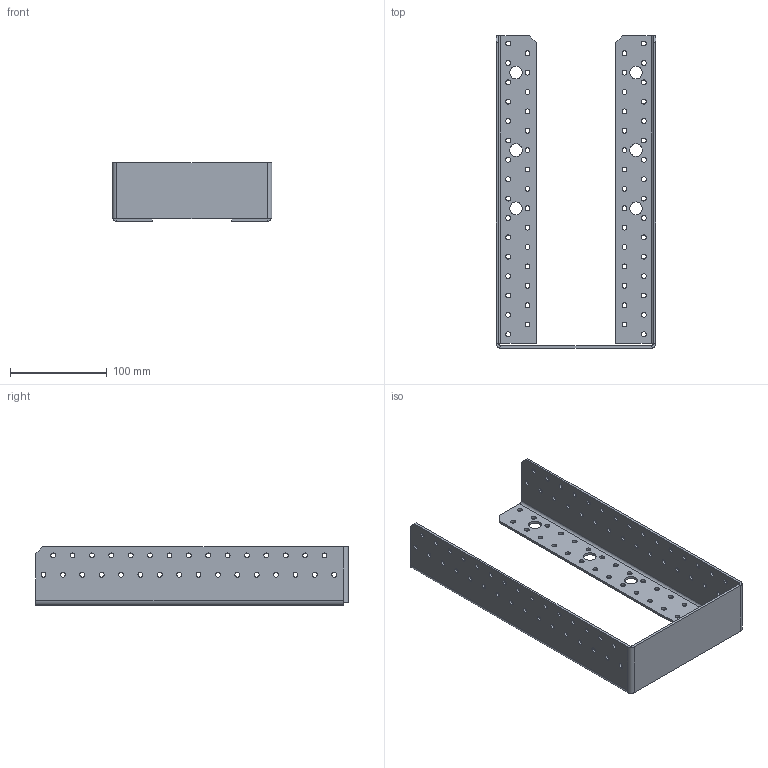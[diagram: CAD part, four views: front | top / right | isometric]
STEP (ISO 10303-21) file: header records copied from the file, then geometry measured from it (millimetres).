
FILE_DESCRIPTION (( 'STEP AP203' ), '1' );
FILE_NAME ('40520IKO.STEP', '2021-04-16T09:31:35', ( '' ), ( '' ), 'SwSTEP 2.0', 'SolidWorks 2013', '' );
FILE_SCHEMA (( 'CONFIG_CONTROL_DESIGN' ));
Length unit declared in the file: millimetre
Products named in the file (1): 40520IKO
Bounding box: 165 x 322.5 x 60.5 mm (x, y, z)
Volume: 171261.6 mm3; surface area: 147150.3 mm2
Topology: 1 solids, 1 shells, 304 faces, 876 edges, 574 vertices
Faces by surface type: cylinder 268, plane 36
Entity records: 10855 total; most frequent: DIRECTION 2024, CARTESIAN_POINT 1755, ORIENTED_EDGE 1752, EDGE_CURVE 876, AXIS2_PLACEMENT_3D 843, VERTEX_POINT 574, EDGE_LOOP 564, CIRCLE 538
